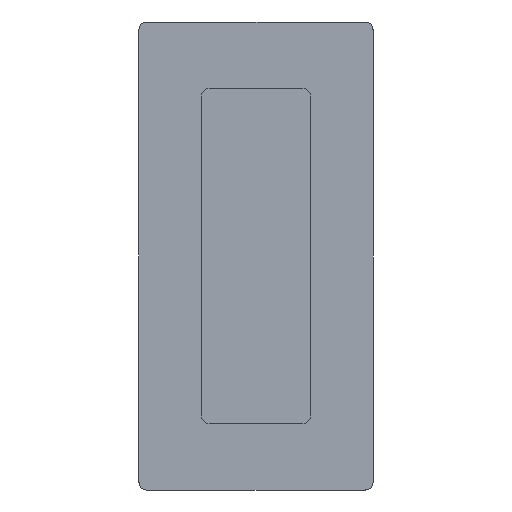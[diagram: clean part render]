
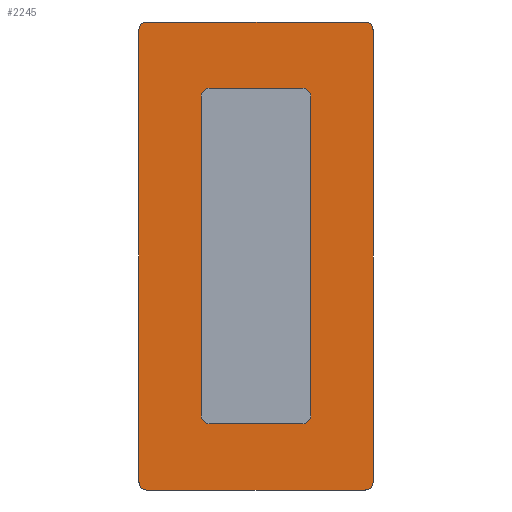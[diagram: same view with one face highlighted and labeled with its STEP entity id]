
A CAD part, top view. The second image highlights one B-rep face of the part: STEP entity #2245.
In plain terms, the highlighted planar face has unit normal (0, 0, 1).
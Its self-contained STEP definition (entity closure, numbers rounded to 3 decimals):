
#20 = CARTESIAN_POINT ( 'NONE',  ( 14., -41., 1.8 ) ) ;
#23 = CARTESIAN_POINT ( 'NONE',  ( -28., -58., 1.8 ) ) ;
#55 = ORIENTED_EDGE ( 'NONE', *, *, #202, .F. ) ;
#68 = DIRECTION ( 'NONE',  ( 0., 1., 0. ) ) ;
#133 = AXIS2_PLACEMENT_3D ( 'NONE', #1702, #2598, #543 ) ;
#142 = DIRECTION ( 'NONE',  ( 0., 0., 1. ) ) ;
#147 = CARTESIAN_POINT ( 'NONE',  ( -28., 43., 1.8 ) ) ;
#200 = CARTESIAN_POINT ( 'NONE',  ( -12., 43., 1.8 ) ) ;
#202 = EDGE_CURVE ( 'NONE', #2596, #2622, #1360, .T. ) ;
#210 = DIRECTION ( 'NONE',  ( 1., 0., 0. ) ) ;
#230 = CARTESIAN_POINT ( 'NONE',  ( 28., 60., 1.8 ) ) ;
#246 = VECTOR ( 'NONE', #830, 1000. ) ;
#265 = CIRCLE ( 'NONE', #133, 2. ) ;
#292 = CARTESIAN_POINT ( 'NONE',  ( -12., -41., 1.8 ) ) ;
#300 = ORIENTED_EDGE ( 'NONE', *, *, #2513, .T. ) ;
#314 = LINE ( 'NONE', #2412, #2762 ) ;
#339 = DIRECTION ( 'NONE',  ( 1., 0., 0. ) ) ;
#384 = ORIENTED_EDGE ( 'NONE', *, *, #2495, .T. ) ;
#458 = AXIS2_PLACEMENT_3D ( 'NONE', #864, #1773, #620 ) ;
#483 = CIRCLE ( 'NONE', #929, 2. ) ;
#493 = AXIS2_PLACEMENT_3D ( 'NONE', #292, #995, #767 ) ;
#499 = VERTEX_POINT ( 'NONE', #1777 ) ;
#505 = EDGE_CURVE ( 'NONE', #798, #2622, #2683, .T. ) ;
#523 = FACE_OUTER_BOUND ( 'NONE', #2187, .T. ) ;
#543 = DIRECTION ( 'NONE',  ( 1., 0., 0. ) ) ;
#608 = DIRECTION ( 'NONE',  ( 0., 1., 0. ) ) ;
#612 = VECTOR ( 'NONE', #2498, 1000. ) ;
#616 = EDGE_CURVE ( 'NONE', #2596, #902, #1977, .T. ) ;
#620 = DIRECTION ( 'NONE',  ( 1., 0., 0. ) ) ;
#639 = CARTESIAN_POINT ( 'NONE',  ( -30., 58., 1.8 ) ) ;
#649 = DIRECTION ( 'NONE',  ( -1., 0., 0. ) ) ;
#662 = CARTESIAN_POINT ( 'NONE',  ( 28., -60., 1.8 ) ) ;
#767 = DIRECTION ( 'NONE',  ( 1., 0., 0. ) ) ;
#768 = CARTESIAN_POINT ( 'NONE',  ( -30., 58., 1.8 ) ) ;
#784 = CARTESIAN_POINT ( 'NONE',  ( 12., -43., 1.8 ) ) ;
#792 = CARTESIAN_POINT ( 'NONE',  ( 30., -58., 1.8 ) ) ;
#798 = VERTEX_POINT ( 'NONE', #1250 ) ;
#830 = DIRECTION ( 'NONE',  ( 1., 0., 0. ) ) ;
#849 = CARTESIAN_POINT ( 'NONE',  ( -28., 58., 1.8 ) ) ;
#850 = CARTESIAN_POINT ( 'NONE',  ( 12., 41., 1.8 ) ) ;
#856 = LINE ( 'NONE', #639, #612 ) ;
#858 = CIRCLE ( 'NONE', #1388, 2. ) ;
#864 = CARTESIAN_POINT ( 'NONE',  ( 28., -58., 1.8 ) ) ;
#873 = ORIENTED_EDGE ( 'NONE', *, *, #1540, .T. ) ;
#890 = VECTOR ( 'NONE', #1111, 1000. ) ;
#902 = VERTEX_POINT ( 'NONE', #2108 ) ;
#929 = AXIS2_PLACEMENT_3D ( 'NONE', #1026, #1993, #1979 ) ;
#995 = DIRECTION ( 'NONE',  ( 0., 0., 1. ) ) ;
#1026 = CARTESIAN_POINT ( 'NONE',  ( -28., -58., 1.8 ) ) ;
#1068 = LINE ( 'NONE', #1304, #1387 ) ;
#1093 = EDGE_CURVE ( 'NONE', #2745, #2946, #314, .T. ) ;
#1111 = DIRECTION ( 'NONE',  ( 0., -1., 0. ) ) ;
#1148 = CARTESIAN_POINT ( 'NONE',  ( 28., 58., 1.8 ) ) ;
#1158 = VERTEX_POINT ( 'NONE', #662 ) ;
#1177 = CARTESIAN_POINT ( 'NONE',  ( 14., 41., 1.8 ) ) ;
#1178 = DIRECTION ( 'NONE',  ( 0., 0., 1. ) ) ;
#1192 = CARTESIAN_POINT ( 'NONE',  ( 30., 58., 1.8 ) ) ;
#1230 = CARTESIAN_POINT ( 'NONE',  ( 30., -58., 1.8 ) ) ;
#1250 = CARTESIAN_POINT ( 'NONE',  ( -14., -41., 1.8 ) ) ;
#1290 = VERTEX_POINT ( 'NONE', #784 ) ;
#1304 = CARTESIAN_POINT ( 'NONE',  ( -28., -60., 1.8 ) ) ;
#1309 = EDGE_CURVE ( 'NONE', #2363, #2249, #1912, .T. ) ;
#1334 = ORIENTED_EDGE ( 'NONE', *, *, #2080, .T. ) ;
#1336 = DIRECTION ( 'NONE',  ( 0., 0., 1. ) ) ;
#1360 = CIRCLE ( 'NONE', #2405, 2. ) ;
#1364 = CARTESIAN_POINT ( 'NONE',  ( -28., 60., 1.8 ) ) ;
#1378 = CIRCLE ( 'NONE', #1901, 2. ) ;
#1387 = VECTOR ( 'NONE', #339, 1000. ) ;
#1388 = AXIS2_PLACEMENT_3D ( 'NONE', #1148, #2045, #2947 ) ;
#1408 = ORIENTED_EDGE ( 'NONE', *, *, #1309, .T. ) ;
#1416 = CARTESIAN_POINT ( 'NONE',  ( -14., 41., 1.8 ) ) ;
#1428 = CIRCLE ( 'NONE', #493, 2. ) ;
#1429 = EDGE_CURVE ( 'NONE', #798, #2800, #1428, .T. ) ;
#1487 = EDGE_CURVE ( 'NONE', #2632, #2675, #1500, .T. ) ;
#1489 = CIRCLE ( 'NONE', #1974, 2. ) ;
#1500 = LINE ( 'NONE', #2925, #890 ) ;
#1540 = EDGE_CURVE ( 'NONE', #2946, #2644, #1378, .T. ) ;
#1549 = DIRECTION ( 'NONE',  ( -1., 0., 0. ) ) ;
#1569 = VECTOR ( 'NONE', #68, 1000. ) ;
#1655 = ORIENTED_EDGE ( 'NONE', *, *, #2858, .T. ) ;
#1702 = CARTESIAN_POINT ( 'NONE',  ( 12., -41., 1.8 ) ) ;
#1739 = DIRECTION ( 'NONE',  ( 1., 0., 0. ) ) ;
#1773 = DIRECTION ( 'NONE',  ( 0., 0., 1. ) ) ;
#1777 = CARTESIAN_POINT ( 'NONE',  ( -30., -58., 1.8 ) ) ;
#1782 = CIRCLE ( 'NONE', #458, 2. ) ;
#1849 = PLANE ( 'NONE',  #2043 ) ;
#1884 = ORIENTED_EDGE ( 'NONE', *, *, #1093, .T. ) ;
#1901 = AXIS2_PLACEMENT_3D ( 'NONE', #849, #1336, #2461 ) ;
#1912 = LINE ( 'NONE', #1230, #1569 ) ;
#1942 = EDGE_CURVE ( 'NONE', #1290, #2675, #265, .T. ) ;
#1974 = AXIS2_PLACEMENT_3D ( 'NONE', #850, #142, #1739 ) ;
#1977 = LINE ( 'NONE', #147, #246 ) ;
#1979 = DIRECTION ( 'NONE',  ( 1., 0., 0. ) ) ;
#1987 = CARTESIAN_POINT ( 'NONE',  ( -12., -43., 1.8 ) ) ;
#1993 = DIRECTION ( 'NONE',  ( 0., 0., 1. ) ) ;
#1998 = ORIENTED_EDGE ( 'NONE', *, *, #1487, .T. ) ;
#2006 = LINE ( 'NONE', #2021, #2926 ) ;
#2017 = CARTESIAN_POINT ( 'NONE',  ( -14., -58., 1.8 ) ) ;
#2021 = CARTESIAN_POINT ( 'NONE',  ( -28., -43., 1.8 ) ) ;
#2043 = AXIS2_PLACEMENT_3D ( 'NONE', #23, #2757, #2540 ) ;
#2045 = DIRECTION ( 'NONE',  ( 0., 0., 1. ) ) ;
#2069 = ORIENTED_EDGE ( 'NONE', *, *, #1429, .F. ) ;
#2080 = EDGE_CURVE ( 'NONE', #2907, #1158, #1068, .T. ) ;
#2086 = FACE_BOUND ( 'NONE', #2649, .T. ) ;
#2108 = CARTESIAN_POINT ( 'NONE',  ( 12., 43., 1.8 ) ) ;
#2169 = VECTOR ( 'NONE', #608, 1000. ) ;
#2187 = EDGE_LOOP ( 'NONE', ( #384, #2382, #1334, #1655, #1408, #300, #1884, #873 ) ) ;
#2245 = ADVANCED_FACE ( 'NONE', ( #2086, #523 ), #1849, .T. ) ;
#2249 = VERTEX_POINT ( 'NONE', #1192 ) ;
#2301 = EDGE_CURVE ( 'NONE', #499, #2907, #483, .T. ) ;
#2329 = ORIENTED_EDGE ( 'NONE', *, *, #2480, .T. ) ;
#2363 = VERTEX_POINT ( 'NONE', #792 ) ;
#2382 = ORIENTED_EDGE ( 'NONE', *, *, #2301, .T. ) ;
#2405 = AXIS2_PLACEMENT_3D ( 'NONE', #2714, #1178, #210 ) ;
#2412 = CARTESIAN_POINT ( 'NONE',  ( 28., 60., 1.8 ) ) ;
#2448 = ORIENTED_EDGE ( 'NONE', *, *, #2851, .F. ) ;
#2461 = DIRECTION ( 'NONE',  ( 1., 0., 0. ) ) ;
#2480 = EDGE_CURVE ( 'NONE', #1290, #2800, #2006, .T. ) ;
#2495 = EDGE_CURVE ( 'NONE', #2644, #499, #856, .T. ) ;
#2498 = DIRECTION ( 'NONE',  ( 0., -1., 0. ) ) ;
#2513 = EDGE_CURVE ( 'NONE', #2249, #2745, #858, .T. ) ;
#2540 = DIRECTION ( 'NONE',  ( 1., 0., 0. ) ) ;
#2576 = ORIENTED_EDGE ( 'NONE', *, *, #616, .T. ) ;
#2586 = ORIENTED_EDGE ( 'NONE', *, *, #505, .T. ) ;
#2596 = VERTEX_POINT ( 'NONE', #200 ) ;
#2598 = DIRECTION ( 'NONE',  ( 0., 0., 1. ) ) ;
#2622 = VERTEX_POINT ( 'NONE', #1416 ) ;
#2632 = VERTEX_POINT ( 'NONE', #1177 ) ;
#2644 = VERTEX_POINT ( 'NONE', #768 ) ;
#2649 = EDGE_LOOP ( 'NONE', ( #2069, #2586, #55, #2576, #2448, #1998, #2835, #2329 ) ) ;
#2675 = VERTEX_POINT ( 'NONE', #20 ) ;
#2683 = LINE ( 'NONE', #2017, #2169 ) ;
#2705 = CARTESIAN_POINT ( 'NONE',  ( -28., -60., 1.8 ) ) ;
#2714 = CARTESIAN_POINT ( 'NONE',  ( -12., 41., 1.8 ) ) ;
#2745 = VERTEX_POINT ( 'NONE', #230 ) ;
#2757 = DIRECTION ( 'NONE',  ( 0., 0., 1. ) ) ;
#2762 = VECTOR ( 'NONE', #649, 1000. ) ;
#2800 = VERTEX_POINT ( 'NONE', #1987 ) ;
#2835 = ORIENTED_EDGE ( 'NONE', *, *, #1942, .F. ) ;
#2851 = EDGE_CURVE ( 'NONE', #2632, #902, #1489, .T. ) ;
#2858 = EDGE_CURVE ( 'NONE', #1158, #2363, #1782, .T. ) ;
#2907 = VERTEX_POINT ( 'NONE', #2705 ) ;
#2925 = CARTESIAN_POINT ( 'NONE',  ( 14., -58., 1.8 ) ) ;
#2926 = VECTOR ( 'NONE', #1549, 1000. ) ;
#2946 = VERTEX_POINT ( 'NONE', #1364 ) ;
#2947 = DIRECTION ( 'NONE',  ( 1., 0., 0. ) ) ;
